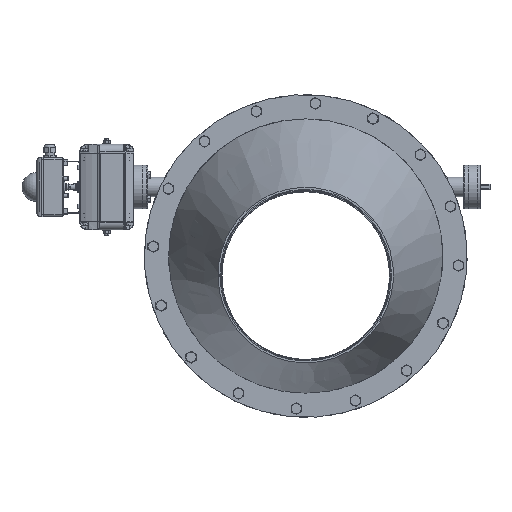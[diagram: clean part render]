
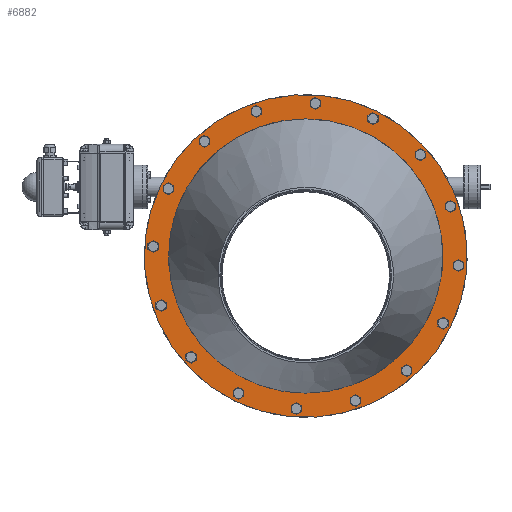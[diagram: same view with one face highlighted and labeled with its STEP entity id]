
A CAD part, top view. The second image highlights one B-rep face of the part: STEP entity #6882.
In plain terms, the highlighted planar face has unit normal (0, 0, 1) as drawn and (0, 0, -1) by its records, which use the part's own axes.
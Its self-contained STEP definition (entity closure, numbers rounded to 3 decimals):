
#5949=CARTESIAN_POINT('',(307.5,0.035,0.0));
#5950=VERTEX_POINT('',#5949);
#5951=CARTESIAN_POINT('',(314.5,0.035,0.0));
#5952=DIRECTION('',(0.0,0.0,1.0));
#5953=DIRECTION('',(1.0,0.0,0.0));
#5954=AXIS2_PLACEMENT_3D('',#5951,#5952,#5953);
#5955=CIRCLE('',#5954,7.);
#5956=EDGE_CURVE('',#5950,#5950,#5955,.T.);
#5998=CARTESIAN_POINT('',(283.547,120.386,0.0));
#5999=VERTEX_POINT('',#5998);
#6000=CARTESIAN_POINT('',(290.547,120.386,0.0));
#6001=DIRECTION('',(0.0,0.0,1.0));
#6002=DIRECTION('',(1.0,0.0,0.0));
#6003=AXIS2_PLACEMENT_3D('',#6000,#6001,#6002);
#6004=CIRCLE('',#6003,7.);
#6005=EDGE_CURVE('',#5999,#5999,#6004,.T.);
#6047=CARTESIAN_POINT('',(215.36,222.41,0.0));
#6048=VERTEX_POINT('',#6047);
#6049=CARTESIAN_POINT('',(222.36,222.41,0.0));
#6050=DIRECTION('',(0.0,0.0,1.0));
#6051=DIRECTION('',(1.0,0.0,0.0));
#6052=AXIS2_PLACEMENT_3D('',#6049,#6050,#6051);
#6053=CIRCLE('',#6052,7.);
#6054=EDGE_CURVE('',#6048,#6048,#6053,.T.);
#6096=CARTESIAN_POINT('',(113.322,290.574,0.0));
#6097=VERTEX_POINT('',#6096);
#6098=CARTESIAN_POINT('',(120.322,290.574,0.0));
#6099=DIRECTION('',(0.0,0.0,1.0));
#6100=DIRECTION('',(1.0,0.0,0.0));
#6101=AXIS2_PLACEMENT_3D('',#6098,#6099,#6100);
#6102=CIRCLE('',#6101,7.);
#6103=EDGE_CURVE('',#6097,#6097,#6102,.T.);
#6145=CARTESIAN_POINT('',(-6.965,-314.5,0.0));
#6146=VERTEX_POINT('',#6145);
#6147=CARTESIAN_POINT('',(0.035,-314.5,0.0));
#6148=DIRECTION('',(0.0,0.0,1.0));
#6149=DIRECTION('',(1.0,0.0,0.0));
#6150=AXIS2_PLACEMENT_3D('',#6147,#6148,#6149);
#6151=CIRCLE('',#6150,7.);
#6152=EDGE_CURVE('',#6146,#6146,#6151,.T.);
#6194=CARTESIAN_POINT('',(113.386,-290.547,0.0));
#6195=VERTEX_POINT('',#6194);
#6196=CARTESIAN_POINT('',(120.386,-290.547,0.0));
#6197=DIRECTION('',(0.0,0.0,1.0));
#6198=DIRECTION('',(1.0,0.0,0.0));
#6199=AXIS2_PLACEMENT_3D('',#6196,#6197,#6198);
#6200=CIRCLE('',#6199,7.);
#6201=EDGE_CURVE('',#6195,#6195,#6200,.T.);
#6243=CARTESIAN_POINT('',(215.41,-222.36,0.0));
#6244=VERTEX_POINT('',#6243);
#6245=CARTESIAN_POINT('',(222.41,-222.36,0.0));
#6246=DIRECTION('',(0.0,0.0,1.0));
#6247=DIRECTION('',(1.0,0.0,0.0));
#6248=AXIS2_PLACEMENT_3D('',#6245,#6246,#6247);
#6249=CIRCLE('',#6248,7.);
#6250=EDGE_CURVE('',#6244,#6244,#6249,.T.);
#6292=CARTESIAN_POINT('',(283.574,-120.322,0.0));
#6293=VERTEX_POINT('',#6292);
#6294=CARTESIAN_POINT('',(290.574,-120.322,0.0));
#6295=DIRECTION('',(0.0,0.0,1.0));
#6296=DIRECTION('',(1.0,0.0,0.0));
#6297=AXIS2_PLACEMENT_3D('',#6294,#6295,#6296);
#6298=CIRCLE('',#6297,7.);
#6299=EDGE_CURVE('',#6293,#6293,#6298,.T.);
#6341=CARTESIAN_POINT('',(-321.5,-0.035,0.0));
#6342=VERTEX_POINT('',#6341);
#6343=CARTESIAN_POINT('',(-314.5,-0.035,0.0));
#6344=DIRECTION('',(0.0,0.0,1.0));
#6345=DIRECTION('',(1.0,0.0,0.0));
#6346=AXIS2_PLACEMENT_3D('',#6343,#6344,#6345);
#6347=CIRCLE('',#6346,7.);
#6348=EDGE_CURVE('',#6342,#6342,#6347,.T.);
#6390=CARTESIAN_POINT('',(-297.547,-120.386,0.0));
#6391=VERTEX_POINT('',#6390);
#6392=CARTESIAN_POINT('',(-290.547,-120.386,0.0));
#6393=DIRECTION('',(0.0,0.0,1.0));
#6394=DIRECTION('',(1.0,0.0,0.0));
#6395=AXIS2_PLACEMENT_3D('',#6392,#6393,#6394);
#6396=CIRCLE('',#6395,7.);
#6397=EDGE_CURVE('',#6391,#6391,#6396,.T.);
#6439=CARTESIAN_POINT('',(-229.36,-222.41,0.0));
#6440=VERTEX_POINT('',#6439);
#6441=CARTESIAN_POINT('',(-222.36,-222.41,0.0));
#6442=DIRECTION('',(0.0,0.0,1.0));
#6443=DIRECTION('',(1.0,0.0,0.0));
#6444=AXIS2_PLACEMENT_3D('',#6441,#6442,#6443);
#6445=CIRCLE('',#6444,7.);
#6446=EDGE_CURVE('',#6440,#6440,#6445,.T.);
#6488=CARTESIAN_POINT('',(-127.322,-290.574,0.0));
#6489=VERTEX_POINT('',#6488);
#6490=CARTESIAN_POINT('',(-120.322,-290.574,0.0));
#6491=DIRECTION('',(0.0,0.0,1.0));
#6492=DIRECTION('',(1.0,0.0,0.0));
#6493=AXIS2_PLACEMENT_3D('',#6490,#6491,#6492);
#6494=CIRCLE('',#6493,7.);
#6495=EDGE_CURVE('',#6489,#6489,#6494,.T.);
#6537=CARTESIAN_POINT('',(-297.574,120.322,0.0));
#6538=VERTEX_POINT('',#6537);
#6539=CARTESIAN_POINT('',(-290.574,120.322,0.0));
#6540=DIRECTION('',(0.0,0.0,1.0));
#6541=DIRECTION('',(1.0,0.0,0.0));
#6542=AXIS2_PLACEMENT_3D('',#6539,#6540,#6541);
#6543=CIRCLE('',#6542,7.);
#6544=EDGE_CURVE('',#6538,#6538,#6543,.T.);
#6586=CARTESIAN_POINT('',(-229.41,222.36,0.0));
#6587=VERTEX_POINT('',#6586);
#6588=CARTESIAN_POINT('',(-222.41,222.36,0.0));
#6589=DIRECTION('',(0.0,0.0,1.0));
#6590=DIRECTION('',(1.0,0.0,0.0));
#6591=AXIS2_PLACEMENT_3D('',#6588,#6589,#6590);
#6592=CIRCLE('',#6591,7.);
#6593=EDGE_CURVE('',#6587,#6587,#6592,.T.);
#6635=CARTESIAN_POINT('',(-127.386,290.547,0.0));
#6636=VERTEX_POINT('',#6635);
#6637=CARTESIAN_POINT('',(-120.386,290.547,0.0));
#6638=DIRECTION('',(0.0,0.0,1.0));
#6639=DIRECTION('',(1.0,0.0,0.0));
#6640=AXIS2_PLACEMENT_3D('',#6637,#6638,#6639);
#6641=CIRCLE('',#6640,7.);
#6642=EDGE_CURVE('',#6636,#6636,#6641,.T.);
#6684=CARTESIAN_POINT('',(-7.035,314.5,0.0));
#6685=VERTEX_POINT('',#6684);
#6686=CARTESIAN_POINT('',(-0.035,314.5,0.0));
#6687=DIRECTION('',(0.0,0.0,1.0));
#6688=DIRECTION('',(1.0,0.0,0.0));
#6689=AXIS2_PLACEMENT_3D('',#6686,#6687,#6688);
#6690=CIRCLE('',#6689,7.);
#6691=EDGE_CURVE('',#6685,#6685,#6690,.T.);
#6723=CARTESIAN_POINT('',(282.0,0.,0.0));
#6724=VERTEX_POINT('',#6723);
#6725=CARTESIAN_POINT('',(0.0,0.0,0.0));
#6726=DIRECTION('',(0.0,0.0,1.0));
#6727=DIRECTION('',(-1.0,0.0,0.0));
#6728=AXIS2_PLACEMENT_3D('',#6725,#6726,#6727);
#6729=CIRCLE('',#6728,282.0);
#6730=EDGE_CURVE('',#6724,#6724,#6729,.T.);
#6751=CARTESIAN_POINT('',(332.0,0.,0.0));
#6752=VERTEX_POINT('',#6751);
#6753=CARTESIAN_POINT('',(0.0,0.0,0.0));
#6754=DIRECTION('',(0.0,0.0,-1.0));
#6755=DIRECTION('',(-1.0,0.0,0.0));
#6756=AXIS2_PLACEMENT_3D('',#6753,#6754,#6755);
#6757=CIRCLE('',#6756,332.0);
#6758=EDGE_CURVE('',#6752,#6752,#6757,.T.);
#6823=CARTESIAN_POINT('',(0.0,0.0,0.0));
#6824=DIRECTION('',(0.0,0.0,-1.0));
#6825=DIRECTION('',(-1.0,0.0,0.0));
#6826=AXIS2_PLACEMENT_3D('',#6823,#6824,#6825);
#6827=PLANE('',#6826);
#6828=ORIENTED_EDGE('',*,*,#6758,.T.);
#6829=EDGE_LOOP('',(#6828));
#6830=FACE_OUTER_BOUND('',#6829,.T.);
#6831=ORIENTED_EDGE('',*,*,#5956,.T.);
#6832=EDGE_LOOP('',(#6831));
#6833=FACE_BOUND('',#6832,.T.);
#6834=ORIENTED_EDGE('',*,*,#6005,.T.);
#6835=EDGE_LOOP('',(#6834));
#6836=FACE_BOUND('',#6835,.T.);
#6837=ORIENTED_EDGE('',*,*,#6054,.T.);
#6838=EDGE_LOOP('',(#6837));
#6839=FACE_BOUND('',#6838,.T.);
#6840=ORIENTED_EDGE('',*,*,#6103,.T.);
#6841=EDGE_LOOP('',(#6840));
#6842=FACE_BOUND('',#6841,.T.);
#6843=ORIENTED_EDGE('',*,*,#6152,.T.);
#6844=EDGE_LOOP('',(#6843));
#6845=FACE_BOUND('',#6844,.T.);
#6846=ORIENTED_EDGE('',*,*,#6201,.T.);
#6847=EDGE_LOOP('',(#6846));
#6848=FACE_BOUND('',#6847,.T.);
#6849=ORIENTED_EDGE('',*,*,#6250,.T.);
#6850=EDGE_LOOP('',(#6849));
#6851=FACE_BOUND('',#6850,.T.);
#6852=ORIENTED_EDGE('',*,*,#6299,.T.);
#6853=EDGE_LOOP('',(#6852));
#6854=FACE_BOUND('',#6853,.T.);
#6855=ORIENTED_EDGE('',*,*,#6348,.T.);
#6856=EDGE_LOOP('',(#6855));
#6857=FACE_BOUND('',#6856,.T.);
#6858=ORIENTED_EDGE('',*,*,#6397,.T.);
#6859=EDGE_LOOP('',(#6858));
#6860=FACE_BOUND('',#6859,.T.);
#6861=ORIENTED_EDGE('',*,*,#6446,.T.);
#6862=EDGE_LOOP('',(#6861));
#6863=FACE_BOUND('',#6862,.T.);
#6864=ORIENTED_EDGE('',*,*,#6495,.T.);
#6865=EDGE_LOOP('',(#6864));
#6866=FACE_BOUND('',#6865,.T.);
#6867=ORIENTED_EDGE('',*,*,#6544,.T.);
#6868=EDGE_LOOP('',(#6867));
#6869=FACE_BOUND('',#6868,.T.);
#6870=ORIENTED_EDGE('',*,*,#6593,.T.);
#6871=EDGE_LOOP('',(#6870));
#6872=FACE_BOUND('',#6871,.T.);
#6873=ORIENTED_EDGE('',*,*,#6642,.T.);
#6874=EDGE_LOOP('',(#6873));
#6875=FACE_BOUND('',#6874,.T.);
#6876=ORIENTED_EDGE('',*,*,#6691,.T.);
#6877=EDGE_LOOP('',(#6876));
#6878=FACE_BOUND('',#6877,.T.);
#6879=ORIENTED_EDGE('',*,*,#6730,.T.);
#6880=EDGE_LOOP('',(#6879));
#6881=FACE_BOUND('',#6880,.T.);
#6882=ADVANCED_FACE('',(#6830,#6833,#6836,#6839,#6842,#6845,#6848,#6851,#6854,#6857,#6860,#6863,#6866,#6869,#6872,#6875,#6878,#6881),#6827,.T.);
